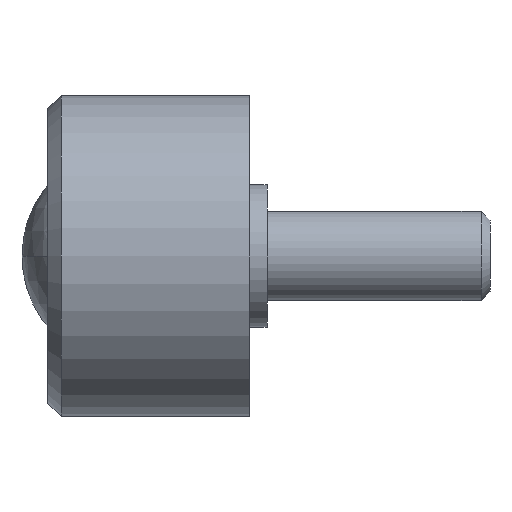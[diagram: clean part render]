
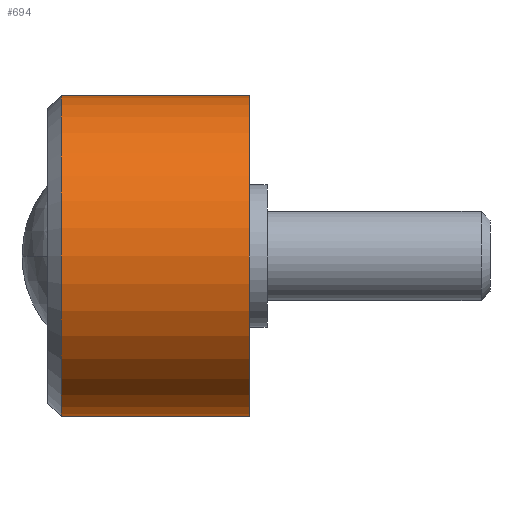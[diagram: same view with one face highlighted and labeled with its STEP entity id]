
A CAD part, left-side view. The second image highlights one B-rep face of the part: STEP entity #694.
In plain terms, the highlighted cylindrical face has radius 18 mm (diameter 36 mm), a partial arc.
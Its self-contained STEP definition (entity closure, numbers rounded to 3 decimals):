
#11 = CARTESIAN_POINT ( 'NONE',  ( 0., 0., 0. ) ) ;
#31 = ORIENTED_EDGE ( 'NONE', *, *, #530, .F. ) ;
#36 = AXIS2_PLACEMENT_3D ( 'NONE', #221, #716, #358 ) ;
#51 = LINE ( 'NONE', #644, #512 ) ;
#88 = DIRECTION ( 'NONE',  ( 0., 0., 1. ) ) ;
#101 = EDGE_CURVE ( 'NONE', #693, #372, #51, .T. ) ;
#111 = CYLINDRICAL_SURFACE ( 'NONE', #36, 18. ) ;
#154 = CARTESIAN_POINT ( 'NONE',  ( 0., 21.1, 0. ) ) ;
#157 = VECTOR ( 'NONE', #595, 1000. ) ;
#170 = FACE_OUTER_BOUND ( 'NONE', #609, .T. ) ;
#176 = CARTESIAN_POINT ( 'NONE',  ( 0., 0., -18. ) ) ;
#203 = LINE ( 'NONE', #321, #157 ) ;
#205 = DIRECTION ( 'NONE',  ( 0., -1., 0. ) ) ;
#221 = CARTESIAN_POINT ( 'NONE',  ( 0., 0., 0. ) ) ;
#229 = CARTESIAN_POINT ( 'NONE',  ( 0., 21.1, -18. ) ) ;
#310 = VERTEX_POINT ( 'NONE', #723 ) ;
#321 = CARTESIAN_POINT ( 'NONE',  ( 0., 0., 18. ) ) ;
#358 = DIRECTION ( 'NONE',  ( 0., 0., -1. ) ) ;
#372 = VERTEX_POINT ( 'NONE', #176 ) ;
#432 = CIRCLE ( 'NONE', #629, 18. ) ;
#477 = ORIENTED_EDGE ( 'NONE', *, *, #101, .T. ) ;
#487 = DIRECTION ( 'NONE',  ( 0., 0., -1. ) ) ;
#490 = ORIENTED_EDGE ( 'NONE', *, *, #674, .T. ) ;
#512 = VECTOR ( 'NONE', #759, 1000. ) ;
#530 = EDGE_CURVE ( 'NONE', #310, #372, #432, .T. ) ;
#560 = CARTESIAN_POINT ( 'NONE',  ( 0., 21.1, 18. ) ) ;
#564 = CIRCLE ( 'NONE', #731, 18. ) ;
#595 = DIRECTION ( 'NONE',  ( 0., -1., 0. ) ) ;
#597 = VERTEX_POINT ( 'NONE', #560 ) ;
#609 = EDGE_LOOP ( 'NONE', ( #702, #490, #477, #31 ) ) ;
#629 = AXIS2_PLACEMENT_3D ( 'NONE', #11, #657, #487 ) ;
#644 = CARTESIAN_POINT ( 'NONE',  ( 0., 0., -18. ) ) ;
#657 = DIRECTION ( 'NONE',  ( 0., -1., 0. ) ) ;
#674 = EDGE_CURVE ( 'NONE', #597, #693, #564, .T. ) ;
#683 = EDGE_CURVE ( 'NONE', #597, #310, #203, .T. ) ;
#693 = VERTEX_POINT ( 'NONE', #229 ) ;
#694 = ADVANCED_FACE ( 'NONE', ( #170 ), #111, .T. ) ;
#702 = ORIENTED_EDGE ( 'NONE', *, *, #683, .F. ) ;
#716 = DIRECTION ( 'NONE',  ( 0., -1., 0. ) ) ;
#723 = CARTESIAN_POINT ( 'NONE',  ( 0., 0., 18. ) ) ;
#731 = AXIS2_PLACEMENT_3D ( 'NONE', #154, #205, #88 ) ;
#759 = DIRECTION ( 'NONE',  ( 0., -1., 0. ) ) ;
